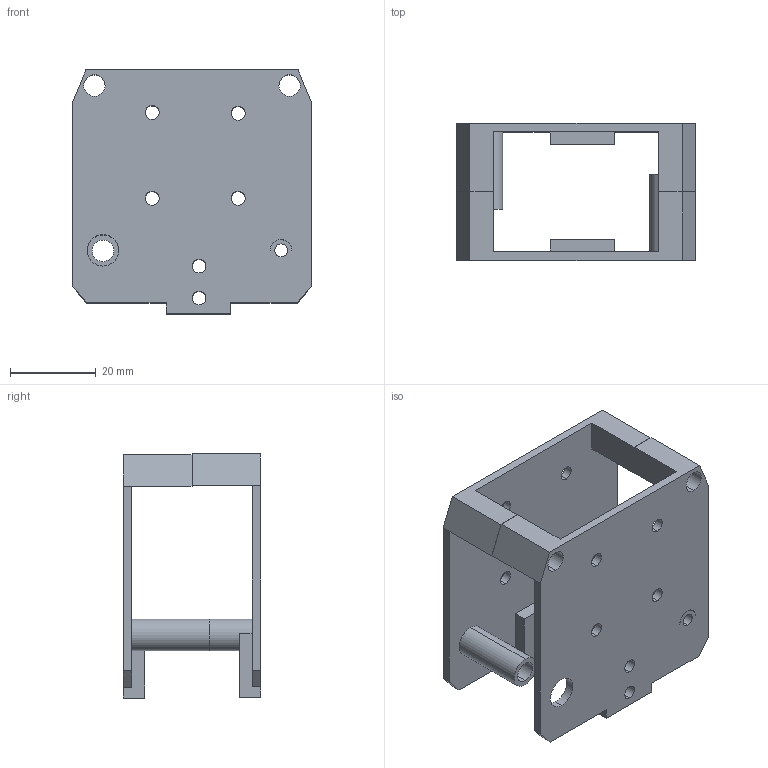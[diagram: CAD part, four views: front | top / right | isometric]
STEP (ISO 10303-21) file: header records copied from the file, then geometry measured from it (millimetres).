
FILE_DESCRIPTION(/* description */ ('STEP AP242 Edition 2','CAx-IF Rec.Pracs.---Representation and Presentation of Product Manufacturing Information (PMI)---4.0---2014-10-13','CAx-IF Rec.Pracs.---3D Tessellated Geometry---0.4---2014-09-14','2;1','CAx-IF Rec.Pracs.---User Defined Attributes---1.5---2016-08-15'),/* implementation_level */ '2;1');
FILE_NAME(/* name */ 'Assembly 1 - Part 6 (1)',/* time_stamp */ '2026-10-08T06:00:18Z',/* author */ (''),/* organization */ (''),/* preprocessor_version */ 'ST-DEVELOPER v20',/* originating_system */ 'ONSHAPE BY PTC INC, 1.221',/* authorisation */ ' ');
FILE_SCHEMA (('AP242_MANAGED_MODEL_BASED_3D_ENGINEERING_MIM_LF { 1 0 10303 442 3 1 4 }'));
Length unit declared in the file: metre
Products named in the file (1): Part 6
Bounding box: 55.5 x 32 x 56.87 mm (x, y, z)
Volume: 15583.3 mm3; surface area: 17328.4 mm2
Topology: 1 solids, 1 shells, 100 faces, 285 edges, 187 vertices
Faces by surface type: bspline 100
Entity records: 3463 total; most frequent: CARTESIAN_POINT 1134, ORIENTED_EDGE 570, DIRECTION 353, EDGE_CURVE 285, VERTEX_POINT 187, EDGE_LOOP 140, FACE_BOUND 140, LINE 125
